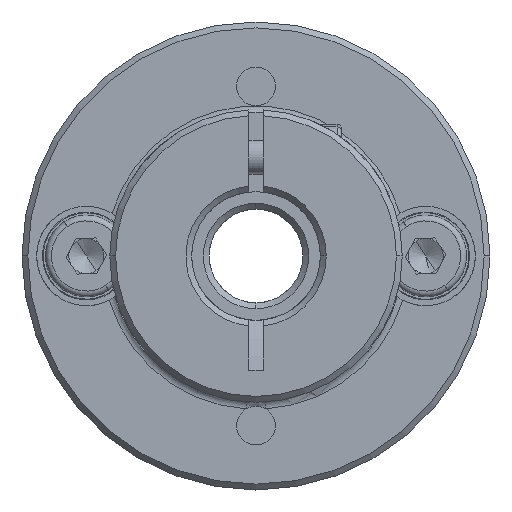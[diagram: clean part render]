
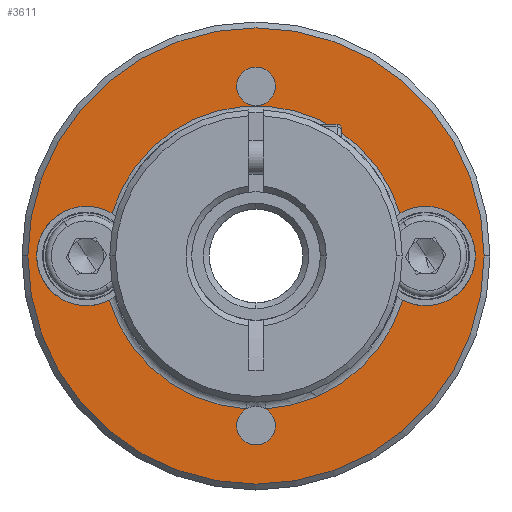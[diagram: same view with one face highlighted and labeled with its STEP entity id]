
A CAD part, front view. The second image highlights one B-rep face of the part: STEP entity #3611.
In plain terms, the highlighted planar face has unit normal (0, -1, 0).
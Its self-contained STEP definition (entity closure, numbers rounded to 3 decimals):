
#83 = AXIS2_PLACEMENT_3D ( 'NONE', #6336, #7137, #10121 ) ;
#139 = AXIS2_PLACEMENT_3D ( 'NONE', #9532, #10480, #5659 ) ;
#218 = FACE_OUTER_BOUND ( 'NONE', #1383, .T. ) ;
#237 = AXIS2_PLACEMENT_3D ( 'NONE', #5387, #7394, #2515 ) ;
#260 = CIRCLE ( 'NONE', #237, 1.65 ) ;
#277 = CARTESIAN_POINT ( 'NONE',  ( -12.005, -13.63, 54.5 ) ) ;
#280 = ORIENTED_EDGE ( 'NONE', *, *, #4947, .T. ) ;
#391 = CARTESIAN_POINT ( 'NONE',  ( -26.505, -13.63, 40. ) ) ;
#450 = VERTEX_POINT ( 'NONE', #2633 ) ;
#485 = CARTESIAN_POINT ( 'NONE',  ( -12.005, -13.63, 40. ) ) ;
#524 = DIRECTION ( 'NONE',  ( 1., 0., 0. ) ) ;
#706 = FACE_BOUND ( 'NONE', #12596, .T. ) ;
#979 = DIRECTION ( 'NONE',  ( 1., 0., 0. ) ) ;
#1010 = FACE_BOUND ( 'NONE', #7251, .T. ) ;
#1192 = CARTESIAN_POINT ( 'NONE',  ( -10.355, -13.63, 54.5 ) ) ;
#1276 = DIRECTION ( 'NONE',  ( 1., 0., 0. ) ) ;
#1339 = DIRECTION ( 'NONE',  ( 1., 0., 0. ) ) ;
#1383 = EDGE_LOOP ( 'NONE', ( #6680, #6017 ) ) ;
#1805 = CARTESIAN_POINT ( 'NONE',  ( -24.307, -13.63, 43.638 ) ) ;
#1820 = AXIS2_PLACEMENT_3D ( 'NONE', #3223, #2204, #1339 ) ;
#1886 = DIRECTION ( 'NONE',  ( 0., 1., 0. ) ) ;
#1926 = DIRECTION ( 'NONE',  ( 1., 0., 0. ) ) ;
#1956 = CARTESIAN_POINT ( 'NONE',  ( -12.005, -13.63, 40. ) ) ;
#2057 = CARTESIAN_POINT ( 'NONE',  ( -11.175, -13.63, 26.926 ) ) ;
#2204 = DIRECTION ( 'NONE',  ( 0., 1., 0. ) ) ;
#2455 = EDGE_CURVE ( 'NONE', #6266, #9123, #6405, .T. ) ;
#2515 = DIRECTION ( 'NONE',  ( 1., 0., 0. ) ) ;
#2633 = CARTESIAN_POINT ( 'NONE',  ( -10.355, -13.63, 25.5 ) ) ;
#2805 = CIRCLE ( 'NONE', #8182, 1.65 ) ;
#2949 = CIRCLE ( 'NONE', #12719, 1.65 ) ;
#3011 = AXIS2_PLACEMENT_3D ( 'NONE', #485, #7373, #524 ) ;
#3020 = EDGE_CURVE ( 'NONE', #8774, #12114, #3779, .T. ) ;
#3223 = CARTESIAN_POINT ( 'NONE',  ( 2.495, -13.63, 40. ) ) ;
#3254 = VERTEX_POINT ( 'NONE', #9870 ) ;
#3354 = CARTESIAN_POINT ( 'NONE',  ( -12.005, -13.63, 40. ) ) ;
#3378 = EDGE_CURVE ( 'NONE', #9077, #10129, #5921, .T. ) ;
#3415 = ORIENTED_EDGE ( 'NONE', *, *, #11300, .T. ) ;
#3611 = ADVANCED_FACE ( 'NONE', ( #218, #1010, #706 ), #4847, .T. ) ;
#3779 = CIRCLE ( 'NONE', #139, 4.25 ) ;
#3939 = DIRECTION ( 'NONE',  ( 0., -1., 0. ) ) ;
#4172 = CARTESIAN_POINT ( 'NONE',  ( 6.745, -13.63, 40. ) ) ;
#4459 = VERTEX_POINT ( 'NONE', #5962 ) ;
#4505 = VERTEX_POINT ( 'NONE', #1192 ) ;
#4565 = CARTESIAN_POINT ( 'NONE',  ( -12.005, -13.63, 40. ) ) ;
#4568 = ORIENTED_EDGE ( 'NONE', *, *, #3378, .T. ) ;
#4688 = DIRECTION ( 'NONE',  ( 1., 0., 0. ) ) ;
#4828 = CARTESIAN_POINT ( 'NONE',  ( -31.505, -13.63, 40. ) ) ;
#4847 = PLANE ( 'NONE',  #9066 ) ;
#4867 = DIRECTION ( 'NONE',  ( 1., 0., 0. ) ) ;
#4947 = EDGE_CURVE ( 'NONE', #4459, #4505, #2805, .T. ) ;
#5045 = CIRCLE ( 'NONE', #10860, 1.65 ) ;
#5239 = AXIS2_PLACEMENT_3D ( 'NONE', #391, #8252, #9253 ) ;
#5387 = CARTESIAN_POINT ( 'NONE',  ( -12.005, -13.63, 54.5 ) ) ;
#5496 = ORIENTED_EDGE ( 'NONE', *, *, #2455, .T. ) ;
#5535 = ORIENTED_EDGE ( 'NONE', *, *, #10954, .T. ) ;
#5659 = DIRECTION ( 'NONE',  ( 1., 0., 0. ) ) ;
#5675 = VERTEX_POINT ( 'NONE', #2057 ) ;
#5707 = EDGE_CURVE ( 'NONE', #12283, #10294, #7304, .T. ) ;
#5724 = DIRECTION ( 'NONE',  ( 0., 1., 0. ) ) ;
#5834 = CARTESIAN_POINT ( 'NONE',  ( -24.55, -13.63, 36.226 ) ) ;
#5835 = ORIENTED_EDGE ( 'NONE', *, *, #10806, .T. ) ;
#5921 = CIRCLE ( 'NONE', #83, 1.65 ) ;
#5962 = CARTESIAN_POINT ( 'NONE',  ( -13.655, -13.63, 54.5 ) ) ;
#6017 = ORIENTED_EDGE ( 'NONE', *, *, #6895, .T. ) ;
#6266 = VERTEX_POINT ( 'NONE', #6881 ) ;
#6297 = CIRCLE ( 'NONE', #10771, 12.829 ) ;
#6336 = CARTESIAN_POINT ( 'NONE',  ( -12.005, -13.63, 25.5 ) ) ;
#6342 = AXIS2_PLACEMENT_3D ( 'NONE', #4565, #7906, #12677 ) ;
#6405 = CIRCLE ( 'NONE', #5239, 4.25 ) ;
#6605 = CIRCLE ( 'NONE', #3011, 13.1 ) ;
#6656 = CARTESIAN_POINT ( 'NONE',  ( -12.834, -13.63, 26.926 ) ) ;
#6680 = ORIENTED_EDGE ( 'NONE', *, *, #5707, .T. ) ;
#6691 = DIRECTION ( 'NONE',  ( 0., 1., 0. ) ) ;
#6866 = CARTESIAN_POINT ( 'NONE',  ( -26.505, -13.63, 40. ) ) ;
#6871 = AXIS2_PLACEMENT_3D ( 'NONE', #6866, #6691, #4867 ) ;
#6881 = CARTESIAN_POINT ( 'NONE',  ( -30.755, -13.63, 40. ) ) ;
#6895 = EDGE_CURVE ( 'NONE', #10294, #12283, #8183, .T. ) ;
#7134 = ORIENTED_EDGE ( 'NONE', *, *, #12252, .T. ) ;
#7137 = DIRECTION ( 'NONE',  ( 0., 1., 0. ) ) ;
#7154 = EDGE_CURVE ( 'NONE', #5675, #450, #2949, .T. ) ;
#7175 = DIRECTION ( 'NONE',  ( 0., 1., 0. ) ) ;
#7251 = EDGE_LOOP ( 'NONE', ( #7134, #5496, #10066, #5835, #11801, #3415, #10567, #11528, #4568, #7562 ) ) ;
#7304 = CIRCLE ( 'NONE', #10329, 19.5 ) ;
#7345 = CARTESIAN_POINT ( 'NONE',  ( 7.495, -13.63, 40. ) ) ;
#7373 = DIRECTION ( 'NONE',  ( 0., 1., 0. ) ) ;
#7394 = DIRECTION ( 'NONE',  ( 0., 1., 0. ) ) ;
#7466 = AXIS2_PLACEMENT_3D ( 'NONE', #3354, #9126, #8220 ) ;
#7508 = CIRCLE ( 'NONE', #6342, 13.1 ) ;
#7562 = ORIENTED_EDGE ( 'NONE', *, *, #9535, .T. ) ;
#7773 = CARTESIAN_POINT ( 'NONE',  ( -12.005, -13.63, 25.5 ) ) ;
#7906 = DIRECTION ( 'NONE',  ( 0., 1., 0. ) ) ;
#8182 = AXIS2_PLACEMENT_3D ( 'NONE', #277, #7175, #1276 ) ;
#8183 = CIRCLE ( 'NONE', #7466, 19.5 ) ;
#8220 = DIRECTION ( 'NONE',  ( 1., 0., 0. ) ) ;
#8252 = DIRECTION ( 'NONE',  ( 0., 1., 0. ) ) ;
#8774 = VERTEX_POINT ( 'NONE', #4172 ) ;
#8827 = CARTESIAN_POINT ( 'NONE',  ( -12.005, -13.63, 40. ) ) ;
#9066 = AXIS2_PLACEMENT_3D ( 'NONE', #11652, #9658, #9706 ) ;
#9077 = VERTEX_POINT ( 'NONE', #12426 ) ;
#9123 = VERTEX_POINT ( 'NONE', #1805 ) ;
#9126 = DIRECTION ( 'NONE',  ( 0., -1., 0. ) ) ;
#9253 = DIRECTION ( 'NONE',  ( 1., 0., 0. ) ) ;
#9376 = EDGE_CURVE ( 'NONE', #9123, #3254, #6297, .T. ) ;
#9532 = CARTESIAN_POINT ( 'NONE',  ( 2.495, -13.63, 40. ) ) ;
#9535 = EDGE_CURVE ( 'NONE', #10129, #10276, #6605, .T. ) ;
#9658 = DIRECTION ( 'NONE',  ( 0., -1., 0. ) ) ;
#9706 = DIRECTION ( 'NONE',  ( 1., 0., 0. ) ) ;
#9732 = DIRECTION ( 'NONE',  ( 1., 0., 0. ) ) ;
#9870 = CARTESIAN_POINT ( 'NONE',  ( 0.298, -13.63, 43.638 ) ) ;
#10066 = ORIENTED_EDGE ( 'NONE', *, *, #9376, .T. ) ;
#10121 = DIRECTION ( 'NONE',  ( 1., 0., 0. ) ) ;
#10129 = VERTEX_POINT ( 'NONE', #6656 ) ;
#10188 = EDGE_CURVE ( 'NONE', #450, #9077, #5045, .T. ) ;
#10276 = VERTEX_POINT ( 'NONE', #5834 ) ;
#10294 = VERTEX_POINT ( 'NONE', #7345 ) ;
#10329 = AXIS2_PLACEMENT_3D ( 'NONE', #8827, #3939, #1926 ) ;
#10480 = DIRECTION ( 'NONE',  ( 0., 1., 0. ) ) ;
#10567 = ORIENTED_EDGE ( 'NONE', *, *, #7154, .T. ) ;
#10604 = CIRCLE ( 'NONE', #6871, 4.25 ) ;
#10630 = CARTESIAN_POINT ( 'NONE',  ( -12.005, -13.63, 25.5 ) ) ;
#10771 = AXIS2_PLACEMENT_3D ( 'NONE', #1956, #12747, #979 ) ;
#10806 = EDGE_CURVE ( 'NONE', #3254, #8774, #11186, .T. ) ;
#10860 = AXIS2_PLACEMENT_3D ( 'NONE', #7773, #1886, #9732 ) ;
#10954 = EDGE_CURVE ( 'NONE', #4505, #4459, #260, .T. ) ;
#11186 = CIRCLE ( 'NONE', #1820, 4.25 ) ;
#11300 = EDGE_CURVE ( 'NONE', #12114, #5675, #7508, .T. ) ;
#11528 = ORIENTED_EDGE ( 'NONE', *, *, #10188, .T. ) ;
#11652 = CARTESIAN_POINT ( 'NONE',  ( -12.005, -13.63, 40. ) ) ;
#11801 = ORIENTED_EDGE ( 'NONE', *, *, #3020, .T. ) ;
#12114 = VERTEX_POINT ( 'NONE', #12559 ) ;
#12252 = EDGE_CURVE ( 'NONE', #10276, #6266, #10604, .T. ) ;
#12283 = VERTEX_POINT ( 'NONE', #4828 ) ;
#12426 = CARTESIAN_POINT ( 'NONE',  ( -13.655, -13.63, 25.5 ) ) ;
#12559 = CARTESIAN_POINT ( 'NONE',  ( 0.54, -13.63, 36.226 ) ) ;
#12596 = EDGE_LOOP ( 'NONE', ( #280, #5535 ) ) ;
#12677 = DIRECTION ( 'NONE',  ( 1., 0., 0. ) ) ;
#12719 = AXIS2_PLACEMENT_3D ( 'NONE', #10630, #5724, #4688 ) ;
#12747 = DIRECTION ( 'NONE',  ( 0., 1., 0. ) ) ;
